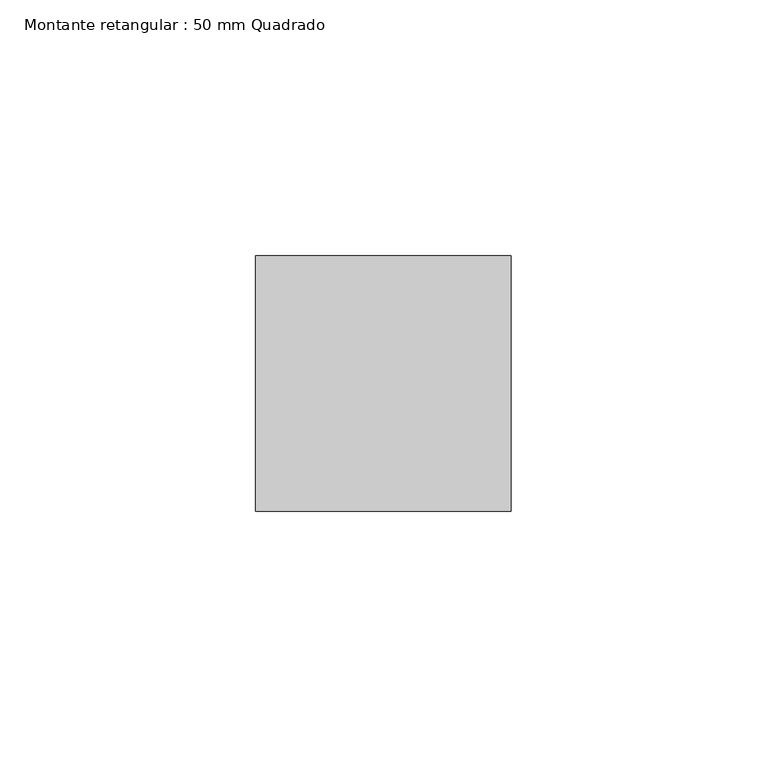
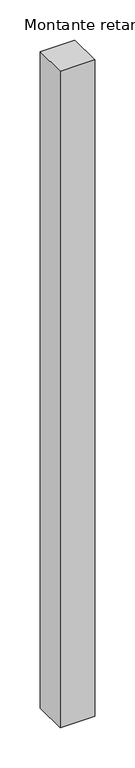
"""IFC4 building model written with IfcOpenShell, lengths in millimetres: member geometry, Montante retangular : 50 mm Quadrado."""

from ifc_helpers import new_model, si_unit, frame, origin, place, context, project, spatial, polyline, outline, extrude, source, transform, mapped, element, save


def montante_retangular_50_mm_quadrado_3d152aff(model_context):
    return source(origin(), model_context, "Body", "SweptSolid", [
        extrude(outline(polyline([(0.0, 25.0), (0.0, -25.0), (-50.0, -25.0), (-50.0, 25.0), (0.0, 25.0)])), frame((0.0, 0.0, -1000.0), z_axis=(0.0, 0.0, 1.0), x_axis=(1.0, 0.0, 0.0)), (0.0, 0.0, 1.0), 1000.0),
    ])


if __name__ == "__main__":
    model = new_model("IFC4")
    model_context = context("Model", 3, world=origin())
    ifc_project = project(units=[si_unit("LENGTHUNIT", "METRE", prefix="MILLI")], contexts=[model_context])
    site = spatial("IfcSite", under=ifc_project)
    building = spatial("IfcBuilding", under=site)
    placement = place(None, origin())
    montante_retangular_50_mm_quadrado_shape = montante_retangular_50_mm_quadrado_3d152aff(model_context)
    element("IfcMember", 1, ObjectType="Montante retangular : 50 mm Quadrado", at=placement, inside=building, context=model_context, shape_type="MappedRepresentation", body=[
        mapped(montante_retangular_50_mm_quadrado_shape, transform((0.0, 0.0, 0.0), x_axis=(1.0, 0.0, 0.0), y_axis=(0.0, 1.0, 0.0), z_axis=(0.0, 0.0, 1.0))),
    ])
    save(model, "model.ifc")
